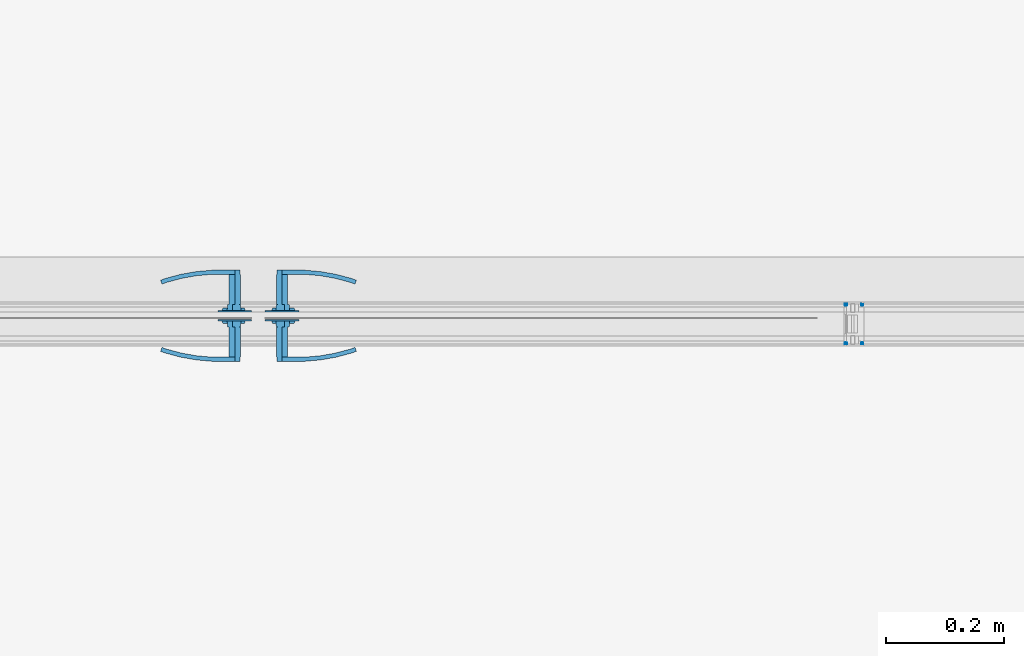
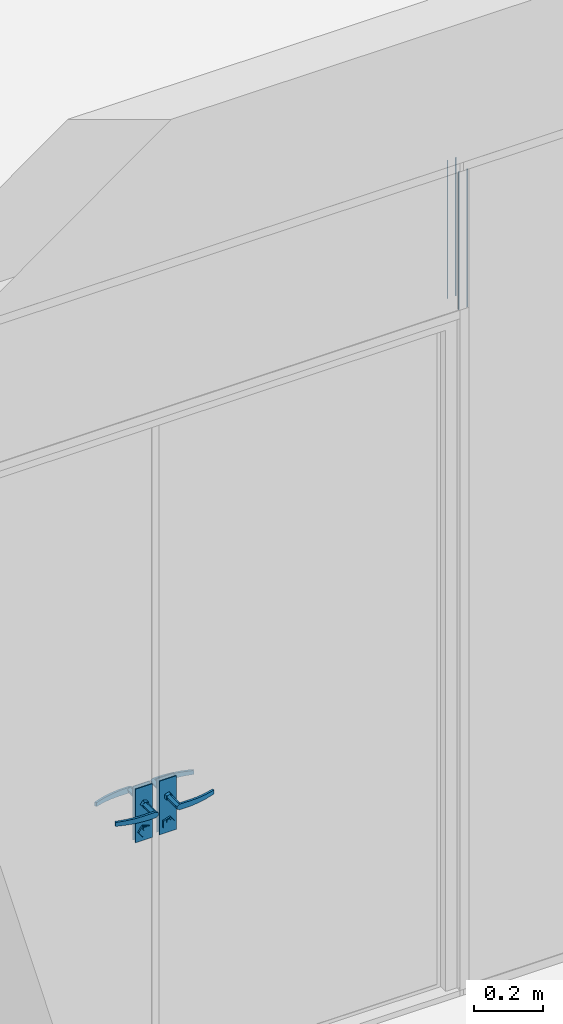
# One storey, part 68 of 89: 2 building element parts, 3 elements without a shape of their own.
"""IFC2X3 building model written with IfcOpenShell, lengths in millimetres."""

from ifc_helpers import new_model, entity, si_unit, converted_unit, derived_unit, money_unit, direction, frame, origin_with_axes, place, context, subcontext, project, spatial, open_shell, faceted_brep, surface_model, material, type_object, element, aggregate, save


model = new_model("IFC2X3")

# Units and contexts
model_context = context("Model", 3, precision=0.01, world=origin_with_axes(), true_north=direction((0.0, 1.0)))
body_context = subcontext(model_context, "Body", "Model", "MODEL_VIEW")
ifc_project = project(units=[si_unit("LENGTHUNIT", "METRE", prefix="MILLI"), si_unit("AREAUNIT", "SQUARE_METRE"), si_unit("VOLUMEUNIT", "CUBIC_METRE"), converted_unit("PLANEANGLEUNIT", "DEGREE", entity("IfcPlaneAngleMeasure", 0.0174532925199), si_unit("PLANEANGLEUNIT", "RADIAN"), dimensions=[0, 0, 0, 0, 0, 0, 0]), si_unit("SOLIDANGLEUNIT", "STERADIAN"), money_unit("EUR"), converted_unit("TIMEUNIT", "Year", entity("IfcTimeMeasure", 31556926.0), si_unit("TIMEUNIT", "SECOND"), dimensions=[0, 0, 1, 0, 0, 0, 0]), si_unit("MASSUNIT", "GRAM", prefix="KILO"), si_unit("THERMODYNAMICTEMPERATUREUNIT", "DEGREE_CELSIUS"), si_unit("LUMINOUSINTENSITYUNIT", "LUMEN"), si_unit("ENERGYUNIT", "JOULE", prefix="MEGA"), derived_unit("THERMALCONDUCTANCEUNIT", [(si_unit("POWERUNIT", "WATT"), 1), (si_unit("LENGTHUNIT", "METRE"), -1), (si_unit("THERMODYNAMICTEMPERATUREUNIT", "KELVIN"), -1)]), derived_unit("SPECIFICHEATCAPACITYUNIT", [(si_unit("ENERGYUNIT", "JOULE"), 1), (si_unit("MASSUNIT", "GRAM", prefix="KILO"), -1), (si_unit("THERMODYNAMICTEMPERATUREUNIT", "KELVIN"), -1)]), derived_unit("MASSDENSITYUNIT", [(si_unit("MASSUNIT", "GRAM", prefix="KILO"), 1), (si_unit("VOLUMEUNIT", "CUBIC_METRE"), -1)])], contexts=[model_context])

# Site, building, storey
site_placement = place(None, origin_with_axes())
site = spatial("IfcSite", under=ifc_project, at=site_placement, Name="Puškini 31, Narva", CompositionType="ELEMENT")
building_placement = place(site_placement, origin_with_axes())
building = spatial("IfcBuilding", under=site, at=building_placement, Name="Narva Riigigümnaasium", CompositionType="ELEMENT")
storey_placement = place(building_placement, frame((0.0, 0.0, -3300.0), z_axis=(0.0, 0.0, 1.0), x_axis=(1.0, 0.0, 0.0)))
storey = spatial("IfcBuildingStorey", under=building, at=storey_placement, Name="1.korrus -3.3", CompositionType="ELEMENT", Elevation=-3300.0)

# Curtain wall, door, building element parts, member
curtain_wall_type = type_object("IfcCurtainWallType", Name="Curtain Wall Type", PredefinedType="NOTDEFINED")
curtain_wall_placement = place(storey_placement, frame((40014.000008, 243997.000057, -9.155864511e-06), z_axis=(0.0, 0.0, 1.0), x_axis=(1.0, 0.0, 0.0)))
curtain_wall = element("IfcCurtainWall", 1, at=curtain_wall_placement, inside=storey, type_object=curtain_wall_type, Name="G-SKLF-09")
door_style = type_object("IfcDoorStyle", Name="1973 x 2365 x 20", ConstructionType="NOTDEFINED", OperationType="NOTDEFINED", ParameterTakesPrecedence=False, Sizeable=False)
door_placement = place(curtain_wall_placement, frame((-1595.00000779, 0.0, 1200.00000358), z_axis=(0.0, 0.0, 1.0), x_axis=(-1.0, 0.0, 0.0)))
door = element("IfcDoor", 2, at=door_placement, type_object=door_style, Name="G-SKLF-09-U1", ObjectType="DOOR")
ifc_material_1 = material(Name="ET-07_Teras - Roostevaba")
building_element_part_1_placement = place(door_placement, origin_with_axes())
building_element_part_1 = element("IfcBuildingElementPart", 3, at=building_element_part_1_placement, material=ifc_material_1, Name="ET-07_Teras - Roostevaba", context=body_context, shape_type="SurfaceModel", body=[
    faceted_brep([(-3.50000305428, -8.00000000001, -120.00000352), (53.4999969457, -8.00000000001, -120.00000352), (53.4999969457, -5.0, -120.00000352), (-3.50000305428, -5.0, -120.00000352), (-3.50000305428, -8.00000000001, -310.00000352), (53.4999969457, -8.00000000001, -310.00000352), (53.4999969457, -5.0, -310.00000352), (-3.50000305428, -5.0, -310.00000352)], [[[0, 1, 2, 3]], [[0, 4, 5, 1]], [[1, 5, 6, 2]], [[3, 2, 6, 7]], [[4, 0, 3, 7]], [[5, 4, 7, 6]]]),
    surface_model("IfcShellBasedSurfaceModel", [(24.9999969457, 56.0, -190.00000352), (16.3397429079, 56.0, -185.00000352), (16.3397429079, 63.0, -185.00000352), (24.9999969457, 63.0, -190.00000352), (49.9999969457, 56.0, -190.00000352), (49.9999969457, 56.0, -170.00000352), (24.9999969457, 56.0, -170.00000352), (16.3397429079, 56.0, -175.00000352), (16.3397429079, 63.0, -175.00000352), (24.9999969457, 63.0, -170.00000352), (49.9999969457, 63.0, -170.00000352), (49.9999969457, 63.0, -190.00000352)], [open_shell([[[0, 1, 2, 3]], [[0, 4, 5, 6, 7, 1]], [[1, 7, 8, 2]], [[3, 2, 8, 9, 10, 11]], [[4, 0, 3, 11]], [[6, 5, 10, 9]], [[7, 6, 9, 8]]])]),
    surface_model("IfcShellBasedSurfaceModel", [(49.9999969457, 56.0, -170.00000352), (63.0982798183, 56.0, -170.392702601), (63.4039064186, 63.0, -170.392702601), (49.9999969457, 56.0, -190.00000352), (63.0982798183, 56.0, -189.607304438), (90.1097135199, 60.6635446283, -171.178100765), (49.9999969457, 63.0, -170.00000352), (49.9999969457, 63.0, -190.00000352), (89.1951597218, 53.716818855, -188.821906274), (89.1951597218, 53.716818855, -171.178100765), (90.1097135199, 60.6635446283, -188.821906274), (63.4039064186, 63.0, -189.607304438), (114.99374077, 49.1678329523, -188.036508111), (114.99374077, 49.1678329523, -171.963498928), (116.510261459, 56.0084157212, -171.963498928), (116.510261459, 56.0084157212, -188.036508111), (140.297680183, 42.3876628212, -187.251109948), (140.297680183, 42.3876628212, -172.748897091), (142.404626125, 49.0700416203, -172.748897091), (142.404626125, 49.0700416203, -187.251109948), (148.170554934, 39.5221707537, -187.00000352), (148.170554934, 39.5221707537, -173.00000352), (150.461201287, 46.1376880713, -173.00000352), (150.461201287, 46.1376880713, -187.00000352)], [open_shell([[[0, 1, 2]], [[0, 3, 4, 1]], [[1, 5, 2]], [[0, 2, 6]], [[4, 3, 7]], [[1, 4, 8, 9]], [[1, 9, 5]], [[2, 5, 10, 11]], [[6, 2, 11, 7]], [[4, 7, 11]], [[8, 4, 11]], [[9, 8, 12, 13]], [[9, 14, 5]], [[5, 14, 15, 10]], [[8, 11, 10]], [[12, 8, 10]], [[13, 12, 16, 17]], [[9, 13, 14]], [[14, 18, 19, 15]], [[12, 10, 15]], [[16, 12, 15]], [[17, 16, 20, 21]], [[13, 17, 18]], [[13, 18, 14]], [[18, 22, 23, 19]], [[16, 15, 19]], [[20, 16, 19]], [[21, 20, 23, 22]], [[17, 21, 22]], [[17, 22, 18]], [[20, 19, 23]]])]),
    faceted_brep([(28.7082008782, 5.0, -191.412681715), (36.9999969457, 5.0, -180.00000352), (37.9999969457, -5.0, -180.00000352), (29.0172178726, -5.0, -192.363738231), (15.2917930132, 5.0, -187.053426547), (15.2917930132, 5.0, -172.946580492), (28.7082008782, 5.0, -168.587325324), (29.0172178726, -5.0, -167.636268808), (14.4827760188, -5.0, -172.35879524), (14.4827760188, -5.0, -187.641211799)], [[[0, 1, 2, 3]], [[1, 0, 4, 5, 6]], [[1, 6, 7, 2]], [[2, 7, 8, 9, 3]], [[4, 0, 3, 9]], [[5, 4, 9, 8]], [[6, 5, 8, 7]]]),
    faceted_brep([(31.1803368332, -1.0, -294.021133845), (44.9999969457, -1.0, -275.00000352), (46.9999969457, -5.0, -275.00000352), (31.798370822, -5.0, -295.923246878), (8.81965705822, -1.0, -286.755708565), (8.81965705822, -1.0, -263.244298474), (31.1803368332, -1.0, -255.978873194), (31.798370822, -5.0, -254.076760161), (7.20162306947, -5.0, -262.068727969), (7.20162306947, -5.0, -287.93127907)], [[[0, 1, 2, 3]], [[1, 0, 4, 5, 6]], [[1, 6, 7, 2]], [[2, 7, 8, 9, 3]], [[4, 0, 3, 9]], [[5, 4, 9, 8]], [[6, 5, 8, 7]]]),
    faceted_brep([(27.1631159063, 1.0, -272.657399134), (31.9999969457, 1.0, -266.00000352), (32.9999969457, -1.0, -266.00000352), (27.4721329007, -1.0, -273.60845565), (19.3368779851, 1.0, -270.114500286), (19.3368779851, 1.0, -261.885506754), (27.1631159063, 1.0, -259.342607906), (27.4721329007, -1.0, -258.391551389), (18.5278609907, -1.0, -261.297721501), (18.5278609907, -1.0, -270.702285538)], [[[0, 1, 2, 3]], [[1, 0, 4, 5, 6]], [[1, 6, 7, 2]], [[2, 7, 8, 9, 3]], [[4, 0, 3, 9]], [[5, 4, 9, 8]], [[6, 5, 8, 7]]]),
    faceted_brep([(24.9999969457, 5.0, -170.00000352), (34.5105621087, 5.0, -176.909833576), (34.5105621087, 56.0, -176.909833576), (24.9999969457, 56.0, -170.00000352), (15.4894317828, 5.0, -176.909833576), (19.1221444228, 5.0, -188.090173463), (30.8778494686, 5.0, -188.090173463), (30.8778494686, 56.0, -188.090173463), (19.1221444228, 56.0, -188.090173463), (15.4894317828, 56.0, -176.909833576)], [[[0, 1, 2, 3]], [[0, 4, 5, 6, 1]], [[1, 6, 7, 2]], [[3, 2, 7, 8, 9]], [[4, 0, 3, 9]], [[5, 4, 9, 8]], [[6, 5, 8, 7]]]),
    faceted_brep([(-3.50000305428, -20.0, -120.00000352), (-3.50000305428, -23.0, -120.00000352), (53.4999969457, -23.0, -120.00000352), (53.4999969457, -20.0, -120.00000352), (-3.50000305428, -20.0, -310.00000352), (-3.50000305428, -23.0, -310.00000352), (53.4999969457, -23.0, -310.00000352), (53.4999969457, -20.0, -310.00000352)], [[[0, 1, 2, 3]], [[4, 5, 1, 0]], [[1, 5, 6, 2]], [[3, 2, 6, 7]], [[0, 3, 7, 4]], [[7, 6, 5, 4]]]),
    surface_model("IfcShellBasedSurfaceModel", [(24.9999969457, -84.0, -190.00000352), (24.9999969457, -91.0, -190.00000352), (16.3397429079, -91.0, -185.00000352), (16.3397429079, -84.0, -185.00000352), (49.9999969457, -84.0, -190.00000352), (49.9999969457, -91.0, -190.00000352), (49.9999969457, -91.0, -170.00000352), (24.9999969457, -91.0, -170.00000352), (16.3397429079, -91.0, -175.00000352), (16.3397429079, -84.0, -175.00000352), (24.9999969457, -84.0, -170.00000352), (49.9999969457, -84.0, -170.00000352)], [open_shell([[[0, 1, 2, 3]], [[4, 5, 1, 0]], [[1, 5, 6, 7, 8, 2]], [[3, 2, 8, 9]], [[0, 3, 9, 10, 11, 4]], [[10, 7, 6, 11]], [[9, 8, 7, 10]]])]),
    surface_model("IfcShellBasedSurfaceModel", [(49.9999969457, -84.0, -170.00000352), (63.4039064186, -91.0, -170.392702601), (63.0982798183, -84.0, -170.392702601), (49.9999969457, -91.0, -170.00000352), (90.1097135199, -88.6635446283, -171.178100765), (63.0982798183, -84.0, -189.607304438), (49.9999969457, -84.0, -190.00000352), (49.9999969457, -91.0, -190.00000352), (63.4039064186, -91.0, -189.607304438), (90.1097135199, -88.6635446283, -188.821906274), (89.1951597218, -81.7168188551, -171.178100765), (89.1951597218, -81.7168188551, -188.821906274), (116.510261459, -84.0084157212, -188.036508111), (116.510261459, -84.0084157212, -171.963498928), (114.99374077, -77.1678329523, -171.963498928), (114.99374077, -77.1678329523, -188.036508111), (142.404626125, -77.0700416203, -187.251109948), (142.404626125, -77.0700416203, -172.748897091), (140.297680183, -70.3876628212, -172.748897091), (140.297680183, -70.3876628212, -187.251109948), (150.461201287, -74.1376880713, -187.00000352), (150.461201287, -74.1376880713, -173.00000352), (148.170554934, -67.5221707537, -173.00000352), (148.170554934, -67.5221707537, -187.00000352)], [open_shell([[[0, 1, 2]], [[0, 3, 1]], [[2, 1, 4]], [[0, 2, 5, 6]], [[3, 7, 8, 1]], [[1, 8, 9, 4]], [[2, 4, 10]], [[2, 10, 11, 5]], [[5, 7, 6]], [[5, 8, 7]], [[11, 9, 8]], [[4, 9, 12, 13]], [[10, 4, 13]], [[10, 14, 15, 11]], [[11, 8, 5]], [[15, 9, 11]], [[15, 12, 9]], [[13, 12, 16, 17]], [[10, 13, 14]], [[14, 18, 19, 15]], [[19, 12, 15]], [[19, 16, 12]], [[17, 16, 20, 21]], [[14, 13, 17]], [[14, 17, 18]], [[18, 22, 23, 19]], [[23, 16, 19]], [[23, 20, 16]], [[22, 21, 20, 23]], [[18, 17, 21]], [[18, 21, 22]]])]),
    faceted_brep([(28.7082008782, -33.0, -191.412681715), (29.0172178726, -23.0, -192.363738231), (37.9999969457, -23.0, -180.00000352), (36.9999969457, -33.0, -180.00000352), (15.2917930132, -33.0, -187.053426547), (14.4827760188, -23.0, -187.641211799), (14.4827760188, -23.0, -172.35879524), (29.0172178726, -23.0, -167.636268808), (28.7082008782, -33.0, -168.587325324), (15.2917930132, -33.0, -172.946580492)], [[[0, 1, 2, 3]], [[4, 5, 1, 0]], [[2, 1, 5, 6, 7]], [[3, 2, 7, 8]], [[3, 8, 9, 4, 0]], [[9, 6, 5, 4]], [[8, 7, 6, 9]]]),
    faceted_brep([(31.1803368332, -27.0, -294.021133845), (31.798370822, -23.0, -295.923246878), (46.9999969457, -23.0, -275.00000352), (44.9999969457, -27.0, -275.00000352), (8.81965705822, -27.0, -286.755708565), (7.20162306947, -23.0, -287.93127907), (7.20162306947, -23.0, -262.068727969), (31.798370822, -23.0, -254.076760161), (31.1803368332, -27.0, -255.978873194), (8.81965705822, -27.0, -263.244298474)], [[[0, 1, 2, 3]], [[4, 5, 1, 0]], [[2, 1, 5, 6, 7]], [[3, 2, 7, 8]], [[3, 8, 9, 4, 0]], [[9, 6, 5, 4]], [[8, 7, 6, 9]]]),
    faceted_brep([(27.1631159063, -29.0, -272.657399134), (27.4721329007, -27.0, -273.60845565), (32.9999969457, -27.0, -266.00000352), (31.9999969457, -29.0, -266.00000352), (19.3368779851, -29.0, -270.114500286), (18.5278609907, -27.0, -270.702285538), (18.5278609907, -27.0, -261.297721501), (27.4721329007, -27.0, -258.391551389), (27.1631159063, -29.0, -259.342607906), (19.3368779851, -29.0, -261.885506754)], [[[0, 1, 2, 3]], [[4, 5, 1, 0]], [[2, 1, 5, 6, 7]], [[3, 2, 7, 8]], [[3, 8, 9, 4, 0]], [[9, 6, 5, 4]], [[8, 7, 6, 9]]]),
    faceted_brep([(24.9999969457, -33.0, -170.00000352), (24.9999969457, -84.0, -170.00000352), (34.5105621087, -84.0, -176.909833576), (34.5105621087, -33.0, -176.909833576), (15.4894317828, -33.0, -176.909833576), (15.4894317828, -84.0, -176.909833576), (19.1221444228, -84.0, -188.090173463), (30.8778494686, -84.0, -188.090173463), (30.8778494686, -33.0, -188.090173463), (19.1221444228, -33.0, -188.090173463)], [[[0, 1, 2, 3]], [[4, 5, 1, 0]], [[1, 5, 6, 7, 2]], [[3, 2, 7, 8]], [[0, 3, 8, 9, 4]], [[9, 6, 5, 4]], [[8, 7, 6, 9]]]),
    faceted_brep([(-26.5000030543, -8.00000000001, -120.00000352), (-26.5000030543, -5.0, -120.00000352), (-83.5000030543, -5.0, -120.00000352), (-83.5000030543, -8.00000000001, -120.00000352), (-26.5000030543, -8.00000000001, -310.00000352), (-26.5000030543, -5.0, -310.00000352), (-83.5000030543, -5.0, -310.00000352), (-83.5000030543, -8.00000000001, -310.00000352)], [[[0, 1, 2, 3]], [[4, 5, 1, 0]], [[1, 5, 6, 2]], [[3, 2, 6, 7]], [[0, 3, 7, 4]], [[7, 6, 5, 4]]]),
    surface_model("IfcShellBasedSurfaceModel", [(-55.0000030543, 56.0, -190.00000352), (-55.0000030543, 63.0, -190.00000352), (-46.3397490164, 63.0, -185.00000352), (-46.3397490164, 56.0, -185.00000352), (-80.0000030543, 56.0, -190.00000352), (-80.0000030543, 63.0, -190.00000352), (-80.0000030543, 63.0, -170.00000352), (-55.0000030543, 63.0, -170.00000352), (-46.3397490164, 63.0, -175.00000352), (-46.3397490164, 56.0, -175.00000352), (-55.0000030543, 56.0, -170.00000352), (-80.0000030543, 56.0, -170.00000352)], [open_shell([[[0, 1, 2, 3]], [[4, 5, 1, 0]], [[1, 5, 6, 7, 8, 2]], [[3, 2, 8, 9]], [[0, 3, 9, 10, 11, 4]], [[10, 7, 6, 11]], [[9, 8, 7, 10]]])]),
    surface_model("IfcShellBasedSurfaceModel", [(-80.0000030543, 56.0, -170.00000352), (-93.4039125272, 63.0, -170.392702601), (-93.0982859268, 56.0, -170.392702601), (-80.0000030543, 63.0, -170.00000352), (-120.109719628, 60.6635446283, -171.178100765), (-93.0982859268, 56.0, -189.607304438), (-80.0000030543, 56.0, -190.00000352), (-80.0000030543, 63.0, -190.00000352), (-93.4039125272, 63.0, -189.607304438), (-120.109719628, 60.6635446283, -188.821906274), (-119.19516583, 53.716818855, -171.178100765), (-119.19516583, 53.716818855, -188.821906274), (-146.510267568, 56.0084157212, -188.036508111), (-146.510267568, 56.0084157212, -171.963498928), (-144.993746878, 49.1678329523, -171.963498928), (-144.993746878, 49.1678329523, -188.036508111), (-172.404632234, 49.0700416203, -187.251109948), (-172.404632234, 49.0700416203, -172.748897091), (-170.297686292, 42.3876628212, -172.748897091), (-170.297686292, 42.3876628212, -187.251109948), (-180.461207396, 46.1376880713, -187.00000352), (-180.461207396, 46.1376880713, -173.00000352), (-178.170561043, 39.5221707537, -173.00000352), (-178.170561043, 39.5221707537, -187.00000352)], [open_shell([[[0, 1, 2]], [[0, 3, 1]], [[2, 1, 4]], [[0, 2, 5, 6]], [[3, 7, 8, 1]], [[1, 8, 9, 4]], [[2, 4, 10]], [[2, 10, 11, 5]], [[5, 7, 6]], [[5, 8, 7]], [[11, 9, 8]], [[4, 9, 12, 13]], [[10, 4, 13]], [[10, 14, 15, 11]], [[11, 8, 5]], [[15, 9, 11]], [[15, 12, 9]], [[13, 12, 16, 17]], [[10, 13, 14]], [[14, 18, 19, 15]], [[19, 12, 15]], [[19, 16, 12]], [[17, 16, 20, 21]], [[14, 13, 17]], [[14, 17, 18]], [[18, 22, 23, 19]], [[23, 16, 19]], [[23, 20, 16]], [[22, 21, 20, 23]], [[18, 17, 21]], [[18, 21, 22]]])]),
    faceted_brep([(-58.7082069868, 5.0, -191.412681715), (-59.0172239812, -5.0, -192.363738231), (-68.0000030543, -5.0, -180.00000352), (-67.0000030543, 5.0, -180.00000352), (-45.2917991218, 5.0, -187.053426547), (-44.4827821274, -5.0, -187.641211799), (-44.4827821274, -5.0, -172.35879524), (-59.0172239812, -5.0, -167.636268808), (-58.7082069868, 5.0, -168.587325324), (-45.2917991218, 5.0, -172.946580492)], [[[0, 1, 2, 3]], [[4, 5, 1, 0]], [[2, 1, 5, 6, 7]], [[3, 2, 7, 8]], [[3, 8, 9, 4, 0]], [[9, 6, 5, 4]], [[8, 7, 6, 9]]]),
    faceted_brep([(-61.1803429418, -1.0, -294.021133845), (-61.7983769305, -5.0, -295.923246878), (-77.0000030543, -5.0, -275.00000352), (-75.0000030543, -1.0, -275.00000352), (-38.8196631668, -1.0, -286.755708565), (-37.201629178, -5.0, -287.93127907), (-37.201629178, -5.0, -262.068727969), (-61.7983769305, -5.0, -254.076760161), (-61.1803429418, -1.0, -255.978873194), (-38.8196631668, -1.0, -263.244298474)], [[[0, 1, 2, 3]], [[4, 5, 1, 0]], [[2, 1, 5, 6, 7]], [[3, 2, 7, 8]], [[3, 8, 9, 4, 0]], [[9, 6, 5, 4]], [[8, 7, 6, 9]]]),
    faceted_brep([(-57.1631220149, 1.0, -272.657399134), (-57.4721390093, -1.0, -273.60845565), (-63.0000030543, -1.0, -266.00000352), (-62.0000030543, 1.0, -266.00000352), (-49.3368840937, 1.0, -270.114500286), (-48.5278670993, -1.0, -270.702285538), (-48.5278670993, -1.0, -261.297721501), (-57.4721390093, -1.0, -258.391551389), (-57.1631220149, 1.0, -259.342607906), (-49.3368840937, 1.0, -261.885506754)], [[[0, 1, 2, 3]], [[4, 5, 1, 0]], [[2, 1, 5, 6, 7]], [[3, 2, 7, 8]], [[3, 8, 9, 4, 0]], [[9, 6, 5, 4]], [[8, 7, 6, 9]]]),
    faceted_brep([(-55.0000030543, 5.0, -170.00000352), (-55.0000030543, 56.0, -170.00000352), (-64.5105682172, 56.0, -176.909833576), (-64.5105682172, 5.0, -176.909833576), (-45.4894378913, 5.0, -176.909833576), (-45.4894378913, 56.0, -176.909833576), (-49.1221505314, 56.0, -188.090173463), (-60.8778555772, 56.0, -188.090173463), (-60.8778555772, 5.0, -188.090173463), (-49.1221505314, 5.0, -188.090173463)], [[[0, 1, 2, 3]], [[4, 5, 1, 0]], [[1, 5, 6, 7, 2]], [[3, 2, 7, 8]], [[0, 3, 8, 9, 4]], [[9, 6, 5, 4]], [[8, 7, 6, 9]]]),
    faceted_brep([(-26.5000030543, -20.0, -120.00000352), (-83.5000030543, -20.0, -120.00000352), (-83.5000030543, -23.0, -120.00000352), (-26.5000030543, -23.0, -120.00000352), (-26.5000030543, -20.0, -310.00000352), (-83.5000030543, -20.0, -310.00000352), (-83.5000030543, -23.0, -310.00000352), (-26.5000030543, -23.0, -310.00000352)], [[[0, 1, 2, 3]], [[0, 4, 5, 1]], [[1, 5, 6, 2]], [[3, 2, 6, 7]], [[4, 0, 3, 7]], [[5, 4, 7, 6]]]),
    surface_model("IfcShellBasedSurfaceModel", [(-55.0000030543, -84.0, -190.00000352), (-46.3397490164, -84.0, -185.00000352), (-46.3397490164, -91.0, -185.00000352), (-55.0000030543, -91.0, -190.00000352), (-80.0000030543, -84.0, -190.00000352), (-80.0000030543, -84.0, -170.00000352), (-55.0000030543, -84.0, -170.00000352), (-46.3397490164, -84.0, -175.00000352), (-46.3397490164, -91.0, -175.00000352), (-55.0000030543, -91.0, -170.00000352), (-80.0000030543, -91.0, -170.00000352), (-80.0000030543, -91.0, -190.00000352)], [open_shell([[[0, 1, 2, 3]], [[0, 4, 5, 6, 7, 1]], [[1, 7, 8, 2]], [[3, 2, 8, 9, 10, 11]], [[4, 0, 3, 11]], [[6, 5, 10, 9]], [[7, 6, 9, 8]]])]),
    surface_model("IfcShellBasedSurfaceModel", [(-80.0000030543, -84.0, -170.00000352), (-93.0982859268, -84.0, -170.392702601), (-93.4039125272, -91.0, -170.392702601), (-80.0000030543, -84.0, -190.00000352), (-93.0982859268, -84.0, -189.607304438), (-120.109719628, -88.6635446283, -171.178100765), (-80.0000030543, -91.0, -170.00000352), (-80.0000030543, -91.0, -190.00000352), (-119.19516583, -81.7168188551, -188.821906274), (-119.19516583, -81.7168188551, -171.178100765), (-120.109719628, -88.6635446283, -188.821906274), (-93.4039125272, -91.0, -189.607304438), (-144.993746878, -77.1678329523, -188.036508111), (-144.993746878, -77.1678329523, -171.963498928), (-146.510267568, -84.0084157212, -171.963498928), (-146.510267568, -84.0084157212, -188.036508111), (-170.297686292, -70.3876628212, -187.251109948), (-170.297686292, -70.3876628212, -172.748897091), (-172.404632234, -77.0700416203, -172.748897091), (-172.404632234, -77.0700416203, -187.251109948), (-178.170561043, -67.5221707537, -187.00000352), (-178.170561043, -67.5221707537, -173.00000352), (-180.461207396, -74.1376880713, -173.00000352), (-180.461207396, -74.1376880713, -187.00000352)], [open_shell([[[0, 1, 2]], [[0, 3, 4, 1]], [[1, 5, 2]], [[0, 2, 6]], [[4, 3, 7]], [[1, 4, 8, 9]], [[1, 9, 5]], [[2, 5, 10, 11]], [[6, 2, 11, 7]], [[4, 7, 11]], [[8, 4, 11]], [[9, 8, 12, 13]], [[9, 14, 5]], [[5, 14, 15, 10]], [[8, 11, 10]], [[12, 8, 10]], [[13, 12, 16, 17]], [[9, 13, 14]], [[14, 18, 19, 15]], [[12, 10, 15]], [[16, 12, 15]], [[17, 16, 20, 21]], [[13, 17, 18]], [[13, 18, 14]], [[18, 22, 23, 19]], [[16, 15, 19]], [[20, 16, 19]], [[21, 20, 23, 22]], [[17, 21, 22]], [[17, 22, 18]], [[20, 19, 23]]])]),
    faceted_brep([(-58.7082069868, -33.0, -191.412681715), (-67.0000030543, -33.0, -180.00000352), (-68.0000030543, -23.0, -180.00000352), (-59.0172239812, -23.0, -192.363738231), (-45.2917991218, -33.0, -187.053426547), (-45.2917991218, -33.0, -172.946580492), (-58.7082069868, -33.0, -168.587325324), (-59.0172239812, -23.0, -167.636268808), (-44.4827821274, -23.0, -172.35879524), (-44.4827821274, -23.0, -187.641211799)], [[[0, 1, 2, 3]], [[1, 0, 4, 5, 6]], [[1, 6, 7, 2]], [[2, 7, 8, 9, 3]], [[4, 0, 3, 9]], [[5, 4, 9, 8]], [[6, 5, 8, 7]]]),
    faceted_brep([(-61.1803429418, -27.0, -294.021133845), (-75.0000030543, -27.0, -275.00000352), (-77.0000030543, -23.0, -275.00000352), (-61.7983769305, -23.0, -295.923246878), (-38.8196631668, -27.0, -286.755708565), (-38.8196631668, -27.0, -263.244298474), (-61.1803429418, -27.0, -255.978873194), (-61.7983769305, -23.0, -254.076760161), (-37.201629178, -23.0, -262.068727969), (-37.201629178, -23.0, -287.93127907)], [[[0, 1, 2, 3]], [[1, 0, 4, 5, 6]], [[1, 6, 7, 2]], [[2, 7, 8, 9, 3]], [[4, 0, 3, 9]], [[5, 4, 9, 8]], [[6, 5, 8, 7]]]),
    faceted_brep([(-57.1631220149, -29.0, -272.657399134), (-62.0000030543, -29.0, -266.00000352), (-63.0000030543, -27.0, -266.00000352), (-57.4721390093, -27.0, -273.60845565), (-49.3368840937, -29.0, -270.114500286), (-49.3368840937, -29.0, -261.885506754), (-57.1631220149, -29.0, -259.342607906), (-57.4721390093, -27.0, -258.391551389), (-48.5278670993, -27.0, -261.297721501), (-48.5278670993, -27.0, -270.702285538)], [[[0, 1, 2, 3]], [[1, 0, 4, 5, 6]], [[1, 6, 7, 2]], [[2, 7, 8, 9, 3]], [[4, 0, 3, 9]], [[5, 4, 9, 8]], [[6, 5, 8, 7]]]),
    faceted_brep([(-55.0000030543, -33.0, -170.00000352), (-64.5105682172, -33.0, -176.909833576), (-64.5105682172, -84.0, -176.909833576), (-55.0000030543, -84.0, -170.00000352), (-45.4894378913, -33.0, -176.909833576), (-49.1221505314, -33.0, -188.090173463), (-60.8778555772, -33.0, -188.090173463), (-60.8778555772, -84.0, -188.090173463), (-49.1221505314, -84.0, -188.090173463), (-45.4894378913, -84.0, -176.909833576)], [[[0, 1, 2, 3]], [[0, 4, 5, 6, 1]], [[1, 6, 7, 2]], [[3, 2, 7, 8, 9]], [[4, 0, 3, 9]], [[5, 4, 9, 8]], [[6, 5, 8, 7]]]),
])
aggregate(door, [building_element_part_1])
member_type = type_object("IfcMemberType", Name="34 x 37", PredefinedType="MULLION")
member_placement = place(curtain_wall_placement, frame((-572.99999416, 0.0, 2430.00001138), z_axis=(0.0, 0.0, 1.0), x_axis=(-1.0, 0.0, 0.0)))
member = element("IfcMember", 4, at=member_placement, type_object=member_type, Name="G-SKLF-09-raam", ObjectType="MULLION")
aggregate(curtain_wall, [door, member])
ifc_material_2 = material(Name="Klaasvill")
building_element_part_2_placement = place(member_placement, origin_with_axes())
building_element_part_2 = element("IfcBuildingElementPart", 5, at=building_element_part_2_placement, material=ifc_material_2, Name="Klaasvill", context=body_context, shape_type="Brep", body=[
    faceted_brep([(11.987414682, -34.0161444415, 0.0), (11.987414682, -34.0161444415, 489.999976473), (12.004489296, -32.0307503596, 489.999976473), (12.004489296, -32.0307503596, 0.0), (15.5126239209, -34.0161444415, 0.0), (15.5126239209, -34.0161444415, 489.999976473), (15.7655837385, -33.0385325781, 489.999976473), (15.4955493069, -32.0307503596, 489.999976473), (14.75780152, -31.2930025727, 489.999976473), (13.7500193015, -31.0229681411, 489.999976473), (12.742237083, -31.2930025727, 489.999976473), (12.742237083, -31.2930025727, 0.0), (13.7500193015, -31.0229681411, 0.0), (14.75780152, -31.2930025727, 0.0), (15.4955493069, -32.0307503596, 0.0), (15.7655837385, -33.0385325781, 0.0)], [[[0, 1, 2, 3]], [[4, 5, 1, 0]], [[1, 5, 6, 7, 8, 9, 10, 2]], [[3, 2, 10, 11]], [[0, 3, 11, 12, 13, 14, 15, 4]], [[15, 6, 5, 4]], [[14, 7, 6, 15]], [[13, 8, 7, 14]], [[12, 9, 8, 13]], [[11, 10, 9, 12]]]),
    faceted_brep([(15.5126239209, 34.0161444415, 0.0), (15.5126239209, 34.0161444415, 489.999976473), (15.4955493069, 32.0307503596, 489.999976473), (15.4955493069, 32.0307503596, 0.0), (11.987414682, 34.0161444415, 0.0), (11.987414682, 34.0161444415, 489.999976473), (11.7344548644, 33.0385325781, 489.999976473), (12.004489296, 32.0307503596, 489.999976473), (12.742237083, 31.2930025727, 489.999976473), (13.7500193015, 31.0229681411, 489.999976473), (14.75780152, 31.2930025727, 489.999976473), (14.75780152, 31.2930025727, 0.0), (13.7500193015, 31.0229681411, 0.0), (12.742237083, 31.2930025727, 0.0), (12.004489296, 32.0307503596, 0.0), (11.7344548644, 33.0385325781, 0.0)], [[[0, 1, 2, 3]], [[4, 5, 1, 0]], [[1, 5, 6, 7, 8, 9, 10, 2]], [[3, 2, 10, 11]], [[0, 3, 11, 12, 13, 14, 15, 4]], [[15, 6, 5, 4]], [[14, 7, 6, 15]], [[13, 8, 7, 14]], [[12, 9, 8, 13]], [[11, 10, 9, 12]]]),
    faceted_brep([(-11.987414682, -34.0161444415, 0.0), (-11.987414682, -34.0161444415, 489.999976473), (-15.7655837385, -33.0385325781, 489.999976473), (-15.7655837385, -33.0385325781, 0.0), (-11.7344548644, -33.0385325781, 0.0), (-11.7344548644, -33.0385325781, 489.999976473), (-12.004489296, -32.0307503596, 489.999976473), (-12.742237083, -31.2930025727, 489.999976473), (-13.7500193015, -31.0229681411, 489.999976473), (-14.75780152, -31.2930025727, 489.999976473), (-15.4955493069, -32.0307503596, 489.999976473), (-15.4955493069, -32.0307503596, 0.0), (-14.75780152, -31.2930025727, 0.0), (-13.7500193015, -31.0229681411, 0.0), (-12.742237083, -31.2930025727, 0.0), (-12.004489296, -32.0307503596, 0.0)], [[[0, 1, 2, 3]], [[4, 5, 1, 0]], [[1, 5, 6, 7, 8, 9, 10, 2]], [[3, 2, 10, 11]], [[0, 3, 11, 12, 13, 14, 15, 4]], [[15, 6, 5, 4]], [[14, 7, 6, 15]], [[13, 8, 7, 14]], [[12, 9, 8, 13]], [[11, 10, 9, 12]]]),
    faceted_brep([(-15.4955493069, 32.0307503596, 0.0), (-15.4955493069, 32.0307503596, 489.999976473), (-15.5126239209, 34.0161444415, 489.999976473), (-15.5126239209, 34.0161444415, 0.0), (-14.75780152, 31.2930025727, 0.0), (-14.75780152, 31.2930025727, 489.999976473), (-13.7500193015, 31.0229681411, 489.999976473), (-12.742237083, 31.2930025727, 489.999976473), (-12.004489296, 32.0307503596, 489.999976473), (-11.7344548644, 33.0385325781, 489.999976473), (-11.987414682, 34.0161444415, 489.999976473), (-11.987414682, 34.0161444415, 0.0), (-11.7344548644, 33.0385325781, 0.0), (-12.004489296, 32.0307503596, 0.0), (-12.742237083, 31.2930025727, 0.0), (-13.7500193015, 31.0229681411, 0.0)], [[[0, 1, 2, 3]], [[4, 5, 1, 0]], [[1, 5, 6, 7, 8, 9, 10, 2]], [[3, 2, 10, 11]], [[0, 3, 11, 12, 13, 14, 15, 4]], [[15, 6, 5, 4]], [[14, 7, 6, 15]], [[13, 8, 7, 14]], [[12, 9, 8, 13]], [[11, 10, 9, 12]]]),
])
aggregate(member, [building_element_part_2])

save(model, "model.ifc")
